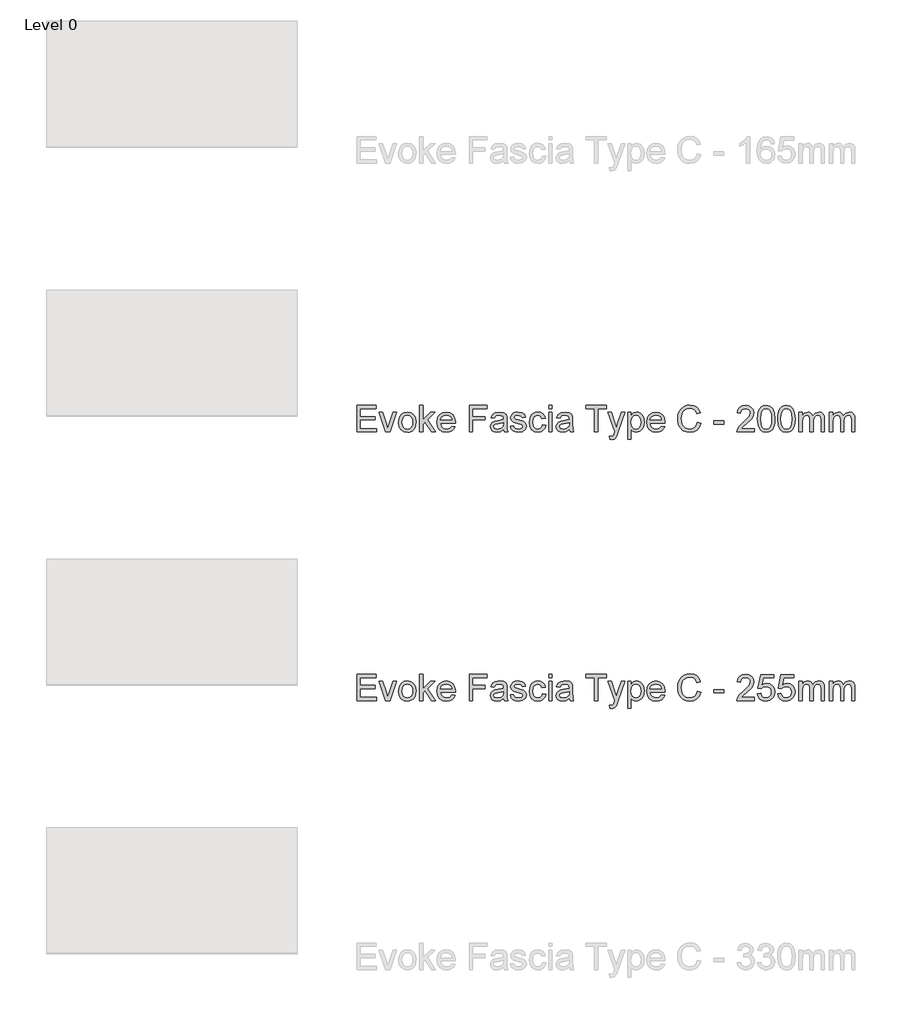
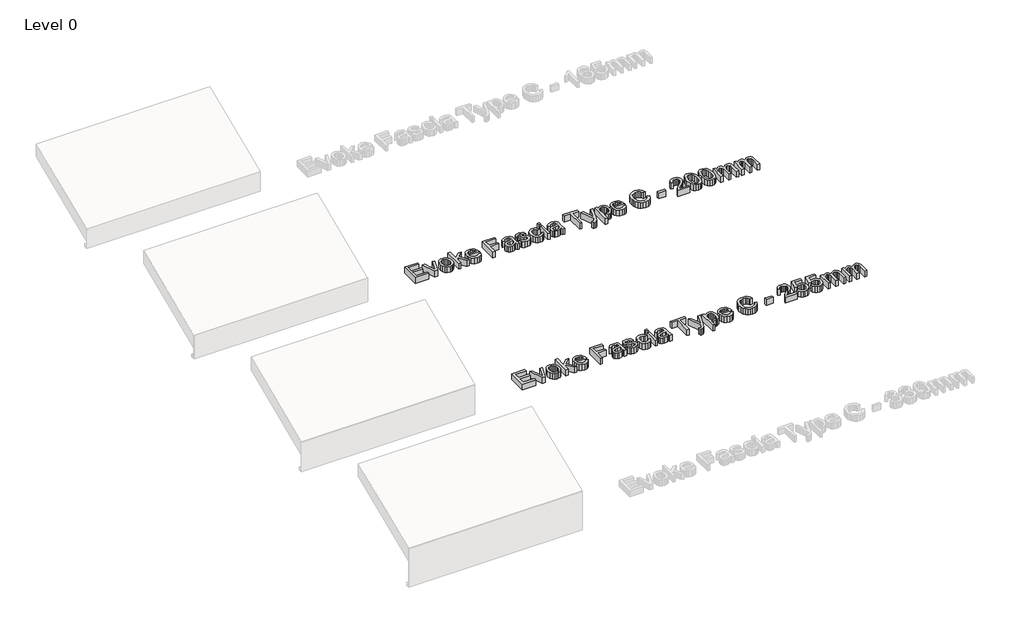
# One storey, part 12 of 13: 2 proxies.
"""IFC4 building model written with IfcOpenShell, lengths in millimetres."""

from ifc_helpers import new_model, si_unit, origin, origin_with_axes, place, context, project, spatial, polyline, outline, extrude, element, save

model = new_model("IFC4")

# Units and contexts
model_context = context("Model", 3, world=origin())
ifc_project = project(units=[si_unit("LENGTHUNIT", "METRE", prefix="MILLI")], contexts=[model_context])

# Site, building, storey
site = spatial("IfcSite", under=ifc_project)
building = spatial("IfcBuilding", under=site)
storey = spatial("IfcBuildingStorey", under=building, Name="Level 0", Elevation=0.0)

# Proxies
placement = place(None, origin())
element("IfcBuildingElementProxy", 1, Name="150mm Arial", ObjectType="150mm Arial", at=placement, inside=storey, context=model_context, shape_type="SweptSolid", body=[
    extrude(outline(polyline([(12568.7201043, 5860.6682311), (12568.7201043, 6008.3605388), (12674.8739504, 6008.3605388), (12674.8739504, 5989.8990003), (12587.1816427, 5989.8990003), (12587.1816427, 5946.0528465), (12670.2585658, 5946.0528465), (12670.2585658, 5927.591308), (12587.1816427, 5927.591308), (12587.1816427, 5879.1297695), (12677.1816427, 5879.1297695), (12677.1816427, 5860.6682311), (12568.7201043, 5860.6682311)])), origin_with_axes(), (0.0, 0.0, 1.0), 50.0),
    extrude(outline(polyline([(12729.176835, 5860.6682311), (12691.0277966, 5969.1297695), (12710.5710658, 5969.1297695), (12733.6840466, 5904.153808), (12740.6431812, 5882.3028465), (12747.458085, 5902.9278465), (12770.7152966, 5969.1297695), (12790.2585658, 5969.1297695), (12752.5782774, 5860.6682311), (12729.176835, 5860.6682311)])), origin_with_axes(), (0.0, 0.0, 1.0), 50.0),
    extrude(outline(polyline([(12801.7970274, 5914.8990003), (12805.7904168, 5941.0498416), (12817.770585, 5959.4302503), (12832.5722677, 5968.435659), (12850.2946235, 5971.4374618), (12869.6891548, 5967.7821133), (12885.1804408, 5956.8160676), (12895.3351884, 5939.4047094), (12898.7201043, 5916.4134234), (12897.22371, 5897.762582), (12892.7345274, 5883.5648657), (12885.3832653, 5872.9323537), (12875.3006331, 5864.9771253), (12863.3249721, 5860.0146854), (12850.2946235, 5858.3605388), (12830.6657173, 5862.0023657), (12815.19246, 5872.9278465), (12805.1458855, 5890.7042888), (12801.7970274, 5914.8990003)]), holes=[polyline([(12820.2585658, 5914.935058), (12822.3949841, 5898.2268248), (12828.8042389, 5886.3232791), (12838.4496716, 5879.1973777), (12850.2946235, 5876.8220772), (12862.0854889, 5879.2108993), (12871.7128927, 5886.3773657), (12878.1221475, 5898.4386638), (12880.2585658, 5915.5119811), (12878.1086259, 5931.7334354), (12871.6588062, 5943.4747215), (12862.0178807, 5950.6006229), (12850.2946235, 5952.9759234), (12838.4496716, 5950.6096373), (12828.8042389, 5943.5107791), (12822.3949841, 5931.6342767), (12820.2585658, 5914.935058)])]), origin_with_axes(), (0.0, 0.0, 1.0), 50.0),
    extrude(outline(polyline([(12919.489335, 5860.6682311), (12919.489335, 6008.3605388), (12937.9508735, 6008.3605388), (12937.9508735, 5928.997558), (12979.3451043, 5969.1297695), (13004.8739504, 5969.1297695), (12962.974912, 5928.4927503), (13007.1816427, 5860.6682311), (12985.6191427, 5860.6682311), (12949.7417389, 5915.6562118), (12937.9508735, 5904.2259234), (12937.9508735, 5860.6682311), (12919.489335, 5860.6682311)])), origin_with_axes(), (0.0, 0.0, 1.0), 50.0),
    extrude(outline(polyline([(13099.2729889, 5892.9759234), (13117.3739504, 5890.6682311), (13110.8520153, 5877.029409), (13100.4448639, 5866.8340965), (13086.3868711, 5860.4789282), (13068.912412, 5858.3605388), (13047.2507533, 5862.0158873), (13030.583085, 5872.981933), (13019.9550802, 5890.5465364), (13016.412412, 5913.997558), (13019.9911379, 5938.2373416), (13030.7273158, 5956.3653465), (13047.1696235, 5967.669433), (13067.8667389, 5971.4374618), (13087.919323, 5967.6784474), (13103.94246, 5956.4014041), (13114.4487701, 5938.309457), (13117.9508735, 5914.1057311), (13117.8427004, 5909.1297695), (13034.8739504, 5909.1297695), (13038.0695634, 5895.310659), (13045.4929408, 5885.1514041), (13056.2065826, 5878.904409), (13069.2729889, 5876.8220772), (13087.3739504, 5880.6802503), (13099.2729889, 5892.9759234)]), holes=[polyline([(13034.8739504, 5927.591308), (13099.489335, 5927.591308), (13096.9923399, 5937.3449138), (13092.0975081, 5944.3220772), (13081.334287, 5950.8124618), (13067.7946235, 5952.9759234), (13055.3502124, 5951.2496614), (13045.0602485, 5946.0708753), (13037.9073038, 5937.9984594), (13034.8739504, 5927.591308)])]), origin_with_axes(), (0.0, 0.0, 1.0), 50.0),
    extrude(outline(polyline([(13196.412412, 5860.6682311), (13196.412412, 6008.3605388), (13295.6431812, 6008.3605388), (13295.6431812, 5989.8990003), (13214.8739504, 5989.8990003), (13214.8739504, 5946.0528465), (13284.1047197, 5946.0528465), (13284.1047197, 5927.591308), (13214.8739504, 5927.591308), (13214.8739504, 5860.6682311), (13196.412412, 5860.6682311)])), origin_with_axes(), (0.0, 0.0, 1.0), 50.0),
    extrude(outline(polyline([(13387.9508735, 5874.5143849), (13370.0482293, 5862.0023657), (13350.270585, 5858.3605388), (13334.8423999, 5860.5510436), (13323.4616908, 5867.122558), (13316.4439624, 5877.1015243), (13314.1047197, 5889.5143849), (13317.6383735, 5904.1177503), (13326.9232293, 5914.7187118), (13339.849912, 5920.7764041), (13355.8234697, 5923.5528465), (13387.8427004, 5929.8990003), (13387.9508735, 5934.0095772), (13386.6798399, 5942.2487599), (13382.8667389, 5947.6393849), (13374.3390947, 5951.6417888), (13362.458085, 5952.9759234), (13343.7802004, 5949.4242407), (13334.8739504, 5936.8220772), (13316.412412, 5939.1297695), (13324.3991908, 5957.1586157), (13340.4809216, 5967.7235195), (13364.8378927, 5971.4374618), (13387.2116908, 5968.1562118), (13399.849912, 5959.9170291), (13405.5109697, 5947.3869811), (13406.412412, 5931.2331349), (13406.412412, 5908.2643849), (13407.349912, 5876.1910676), (13411.0277966, 5860.6682311), (13392.5662581, 5860.6682311), (13387.9508735, 5874.5143849)]), holes=[polyline([(13387.9508735, 5911.4374618), (13358.1672197, 5905.7764041), (13342.2838062, 5902.7836157), (13335.0902966, 5897.9158272), (13332.5662581, 5890.8124618), (13338.0650562, 5880.8244811), (13354.2008735, 5876.8220772), (13372.8787581, 5881.2391445), (13384.9220274, 5891.9302503), (13387.8427004, 5906.2090965), (13387.9508735, 5911.4374618)])]), origin_with_axes(), (0.0, 0.0, 1.0), 50.0),
    extrude(outline(polyline([(13424.8739504, 5892.9759234), (13443.3354889, 5895.2836157), (13446.2471475, 5887.3869811), (13451.881162, 5881.5816926), (13471.4604889, 5876.8220772), (13490.2826043, 5881.185058), (13496.412412, 5891.4254426), (13490.2465466, 5899.7187118), (13471.2441427, 5904.9831349), (13443.443662, 5914.0155868), (13431.3102485, 5924.5624618), (13427.1816427, 5939.4542888), (13430.4989504, 5953.2102984), (13439.5494312, 5963.7211157), (13451.28621, 5969.1838561), (13467.1696235, 5971.4374618), (13489.6335658, 5967.8136638), (13503.912412, 5958.0059715), (13510.2585658, 5941.4374618), (13491.7970274, 5939.1297695), (13484.8559216, 5949.3160676), (13468.6119312, 5952.9759234), (13450.943662, 5949.4783272), (13445.6431812, 5941.3292888), (13447.8427004, 5935.9566926), (13454.7297197, 5931.8821734), (13470.631162, 5927.9518849), (13497.7285177, 5919.2619811), (13510.3126524, 5909.4182311), (13514.8739504, 5893.372558), (13509.5193831, 5875.7042888), (13494.068662, 5862.8857791), (13471.208085, 5858.3605388), (13452.5933014, 5860.5420291), (13439.0085658, 5867.0865003), (13429.9400562, 5877.9218368), (13424.8739504, 5892.9759234)])), origin_with_axes(), (0.0, 0.0, 1.0), 50.0),
    extrude(outline(polyline([(13604.8739504, 5899.8990003), (13623.3354889, 5897.591308), (13618.1882533, 5881.1715364), (13608.5157774, 5868.763183), (13595.2285177, 5860.9611998), (13579.2369312, 5858.3605388), (13559.5990105, 5861.9888441), (13544.2429408, 5872.8737599), (13534.3315826, 5890.5375219), (13531.0277966, 5914.5023657), (13536.6708254, 5945.169433), (13543.7922197, 5956.6673296), (13553.8703447, 5964.8749618), (13565.9271355, 5969.7968368), (13578.9845274, 5971.4374618), (13594.5839865, 5969.1838561), (13607.0554408, 5962.4230388), (13616.0022557, 5951.5155868), (13621.0277966, 5936.8220772), (13602.5662581, 5934.5143849), (13594.0025562, 5948.3425099), (13579.1287581, 5952.9759234), (13567.1981692, 5950.6952743), (13557.7285177, 5943.8533272), (13551.5491307, 5932.0804907), (13549.489335, 5915.0071734), (13551.5040586, 5897.7039883), (13557.5482293, 5885.8905868), (13566.8466067, 5879.0892046), (13578.6239504, 5876.8220772), (13588.1837461, 5878.2373416), (13596.021787, 5882.4831349), (13601.7234096, 5889.6676301), (13604.8739504, 5899.8990003)])), origin_with_axes(), (0.0, 0.0, 1.0), 50.0),
    extrude(outline(polyline([(13639.489335, 5989.8990003), (13639.489335, 6008.3605388), (13657.9508735, 6008.3605388), (13657.9508735, 5989.8990003), (13639.489335, 5989.8990003)])), origin_with_axes(), (0.0, 0.0, 1.0), 50.0),
    extrude(outline(polyline([(13639.489335, 5860.6682311), (13639.489335, 5969.1297695), (13657.9508735, 5969.1297695), (13657.9508735, 5860.6682311), (13639.489335, 5860.6682311)])), origin_with_axes(), (0.0, 0.0, 1.0), 50.0),
    extrude(outline(polyline([(13754.8739504, 5874.5143849), (13736.9713062, 5862.0023657), (13717.193662, 5858.3605388), (13701.7654769, 5860.5510436), (13690.3847677, 5867.122558), (13683.3670394, 5877.1015243), (13681.0277966, 5889.5143849), (13684.5614504, 5904.1177503), (13693.8463062, 5914.7187118), (13706.7729889, 5920.7764041), (13722.7465466, 5923.5528465), (13754.7657774, 5929.8990003), (13754.8739504, 5934.0095772), (13753.6029168, 5942.2487599), (13749.7898158, 5947.6393849), (13741.2621716, 5951.6417888), (13729.381162, 5952.9759234), (13710.7032774, 5949.4242407), (13701.7970274, 5936.8220772), (13683.3354889, 5939.1297695), (13691.3222677, 5957.1586157), (13707.4039985, 5967.7235195), (13731.7609697, 5971.4374618), (13754.1347677, 5968.1562118), (13766.7729889, 5959.9170291), (13772.4340466, 5947.3869811), (13773.3354889, 5931.2331349), (13773.3354889, 5908.2643849), (13774.2729889, 5876.1910676), (13777.9508735, 5860.6682311), (13759.489335, 5860.6682311), (13754.8739504, 5874.5143849)]), holes=[polyline([(13754.8739504, 5911.4374618), (13725.0902966, 5905.7764041), (13709.2068831, 5902.7836157), (13702.0133735, 5897.9158272), (13699.489335, 5890.8124618), (13704.9881331, 5880.8244811), (13721.1239504, 5876.8220772), (13739.801835, 5881.2391445), (13751.8451043, 5891.9302503), (13754.7657774, 5906.2090965), (13754.8739504, 5911.4374618)])]), origin_with_axes(), (0.0, 0.0, 1.0), 50.0),
    extrude(outline(polyline([(13895.6431812, 5860.6682311), (13895.6431812, 5989.8990003), (13847.1816427, 5989.8990003), (13847.1816427, 6008.3605388), (13962.5662581, 6008.3605388), (13962.5662581, 5989.8990003), (13914.1047197, 5989.8990003), (13914.1047197, 5860.6682311), (13895.6431812, 5860.6682311)])), origin_with_axes(), (0.0, 0.0, 1.0), 50.0),
    extrude(outline(polyline([(13981.0277966, 5819.1297695), (13978.7201043, 5836.9062118), (13988.0951043, 5835.2836157), (13996.8571235, 5837.3208753), (14002.2297197, 5842.9999618), (14007.2777966, 5856.5937118), (14008.7201043, 5861.0648657), (13969.489335, 5969.1297695), (13988.9604889, 5969.1297695), (14009.7657774, 5908.9134234), (14017.0133735, 5884.8268849), (14024.2609697, 5906.1009234), (14045.6431812, 5969.1297695), (14064.9701043, 5969.1297695), (14027.2177004, 5858.0720772), (14017.4100081, 5833.9855388), (14006.7008735, 5820.9687118), (13992.3138543, 5816.8220772), (13981.0277966, 5819.1297695)])), origin_with_axes(), (0.0, 0.0, 1.0), 50.0),
    extrude(outline(polyline([(14080.2585658, 5819.1297695), (14080.2585658, 5969.1297695), (14098.7201043, 5969.1297695), (14098.7201043, 5951.028808), (14111.4845274, 5966.3352984), (14128.7201043, 5971.4374618), (14141.2050802, 5969.6526061), (14152.1215466, 5964.2980388), (14161.0097677, 5955.6982791), (14167.4100081, 5944.1778465), (14172.5662581, 5915.7283272), (14171.1104288, 5899.9395652), (14166.7429408, 5885.8184715), (14159.6035177, 5874.0816926), (14149.8318831, 5865.4458753), (14138.451174, 5860.1318729), (14126.4845274, 5858.3605388), (14110.4208254, 5863.1021253), (14098.7201043, 5875.091308), (14098.7201043, 5819.1297695), (14080.2585658, 5819.1297695)]), holes=[polyline([(14098.7201043, 5914.0336157), (14100.716799, 5897.4831349), (14106.7068831, 5885.9086157), (14115.5455249, 5879.0937118), (14126.0878927, 5876.8220772), (14136.8015346, 5879.1748416), (14145.865537, 5886.2331349), (14152.044924, 5898.231332), (14154.1047197, 5915.403808), (14152.0945033, 5931.8641445), (14146.0638543, 5943.6009234), (14137.2387341, 5950.6321734), (14126.8451043, 5952.9759234), (14116.4109096, 5950.4834354), (14107.2477485, 5943.0059715), (14100.8520153, 5930.7779066), (14098.7201043, 5914.0336157)])]), origin_with_axes(), (0.0, 0.0, 1.0), 50.0),
    extrude(outline(polyline([(14269.2729889, 5892.9759234), (14287.3739504, 5890.6682311), (14280.8520153, 5877.029409), (14270.4448639, 5866.8340965), (14256.3868711, 5860.4789282), (14238.912412, 5858.3605388), (14217.2507533, 5862.0158873), (14200.583085, 5872.981933), (14189.9550802, 5890.5465364), (14186.412412, 5913.997558), (14189.9911379, 5938.2373416), (14200.7273158, 5956.3653465), (14217.1696235, 5967.669433), (14237.8667389, 5971.4374618), (14257.919323, 5967.6784474), (14273.94246, 5956.4014041), (14284.4487701, 5938.309457), (14287.9508735, 5914.1057311), (14287.8427004, 5909.1297695), (14204.8739504, 5909.1297695), (14208.0695634, 5895.310659), (14215.4929408, 5885.1514041), (14226.2065826, 5878.904409), (14239.2729889, 5876.8220772), (14257.3739504, 5880.6802503), (14269.2729889, 5892.9759234)]), holes=[polyline([(14204.8739504, 5927.591308), (14269.489335, 5927.591308), (14266.9923399, 5937.3449138), (14262.0975081, 5944.3220772), (14251.334287, 5950.8124618), (14237.7946235, 5952.9759234), (14225.3502124, 5951.2496614), (14215.0602485, 5946.0708753), (14207.9073038, 5937.9984594), (14204.8739504, 5927.591308)])]), origin_with_axes(), (0.0, 0.0, 1.0), 50.0),
    extrude(outline(polyline([(14470.2585658, 5913.1682311), (14488.7201043, 5908.4086157), (14480.2014745, 5886.895695), (14466.833085, 5871.1790484), (14449.2729889, 5861.5651662), (14428.1792389, 5858.3605388), (14406.7654769, 5860.7854186), (14389.7597677, 5868.060058), (14376.724912, 5879.9320532), (14367.22371, 5896.1490003), (14361.4229288, 5915.2145051), (14359.489335, 5935.6321734), (14361.6753326, 5957.1676301), (14368.2333254, 5975.7643849), (14378.8207653, 5990.8319931), (14393.0951043, 6001.7800099), (14410.0241908, 6008.4461758), (14428.5758735, 6010.6682311), (14448.8177605, 6007.7926301), (14465.553037, 5999.1658272), (14478.2588663, 5985.3196734), (14486.412412, 5966.7860195), (14467.9508735, 5962.3869811), (14461.5506331, 5975.8500219), (14452.8066427, 5985.0852984), (14441.6107293, 5990.4263441), (14427.8547197, 5992.2066926), (14411.9983495, 5990.232534), (14398.9725081, 5984.310058), (14389.0881932, 5975.0612599), (14382.6564024, 5963.1081349), (14377.9508735, 5935.6682311), (14383.521787, 5903.8653465), (14390.6431812, 5891.9888441), (14400.865537, 5883.5468368), (14413.1206451, 5878.5032671), (14426.3402966, 5876.8220772), (14441.7504528, 5879.1117407), (14454.5914985, 5885.9807311), (14464.2865105, 5897.356933), (14470.2585658, 5913.1682311)])), origin_with_axes(), (0.0, 0.0, 1.0), 50.0),
    extrude(outline(polyline([(14560.2585658, 5904.5143849), (14560.2585658, 5922.9759234), (14617.9508735, 5922.9759234), (14617.9508735, 5904.5143849), (14560.2585658, 5904.5143849)])), origin_with_axes(), (0.0, 0.0, 1.0), 50.0),
    extrude(outline(polyline([(14786.412412, 5879.1297695), (14786.412412, 5860.6682311), (14689.489335, 5860.6682311), (14691.4725081, 5873.3965965), (14702.6864504, 5892.9939522), (14725.7994312, 5914.3941926), (14757.6744312, 5945.1514041), (14763.6509937, 5955.7523657), (14765.6431812, 5966.0648657), (14763.763674, 5975.3091566), (14758.1251524, 5982.9939522), (14749.4577846, 5988.1727383), (14738.4917389, 5989.8990003), (14726.9758134, 5988.2133032), (14718.0289985, 5983.1562118), (14712.2552605, 5975.1243609), (14710.2585658, 5964.5143849), (14691.7970274, 5966.8220772), (14696.2726884, 5984.6796493), (14705.9496716, 5997.7235195), (14720.3231692, 6005.701284), (14738.8883735, 6008.3605388), (14757.5887942, 6005.403808), (14771.9352485, 5996.5336157), (14781.0623519, 5983.2824138), (14784.1047197, 5967.1826541), (14780.8234697, 5949.6766445), (14769.9160177, 5931.575683), (14743.4677004, 5906.2812118), (14722.2297197, 5888.5227984), (14713.9003927, 5879.1297695), (14786.412412, 5879.1297695)])), origin_with_axes(), (0.0, 0.0, 1.0), 50.0),
    extrude(outline(polyline([(14804.8739504, 5933.3244811), (14806.2306211, 5956.9648056), (14810.3006331, 5975.8184715), (14817.0434216, 5990.1739402), (14826.4184216, 6000.3196734), (14838.4932413, 6006.3503224), (14853.3354889, 6008.3605388), (14874.8979889, 6003.6009234), (14889.7898158, 5989.8809715), (14898.443662, 5968.0300099), (14901.7970274, 5933.3244811), (14900.4538783, 5909.8193729), (14896.4244312, 5891.0107791), (14889.7222076, 5876.6417888), (14880.3607293, 5866.4554907), (14868.2588663, 5860.3842767), (14853.3354889, 5858.3605388), (14834.1527966, 5861.8761638), (14819.5854889, 5872.4230388), (14808.551835, 5897.4020051), (14804.8739504, 5933.3244811)]), holes=[polyline([(14823.3354889, 5933.3605388), (14825.4989504, 5904.3205748), (14831.989335, 5887.513183), (14841.6527966, 5879.4948537), (14853.3354889, 5876.8220772), (14865.0181812, 5879.5038681), (14874.6816427, 5887.5492407), (14881.1720274, 5904.3656469), (14883.3354889, 5933.3605388), (14881.2441427, 5961.746957), (14874.9701043, 5978.685058), (14865.3246716, 5987.0955147), (14853.1191427, 5989.8990003), (14841.5626524, 5987.4290484), (14832.2777966, 5980.0191926), (14825.5710658, 5962.0264041), (14823.3354889, 5933.3605388)])]), origin_with_axes(), (0.0, 0.0, 1.0), 50.0),
    extrude(outline(polyline([(14917.9508735, 5933.3244811), (14919.3075442, 5956.9648056), (14923.3775562, 5975.8184715), (14930.1203447, 5990.1739402), (14939.4953447, 6000.3196734), (14951.5701644, 6006.3503224), (14966.412412, 6008.3605388), (14987.974912, 6003.6009234), (15002.8667389, 5989.8809715), (15011.520585, 5968.0300099), (15014.8739504, 5933.3244811), (15013.5308014, 5909.8193729), (15009.5013543, 5891.0107791), (15002.7991307, 5876.6417888), (14993.4376524, 5866.4554907), (14981.3357894, 5860.3842767), (14966.412412, 5858.3605388), (14947.2297197, 5861.8761638), (14932.662412, 5872.4230388), (14921.6287581, 5897.4020051), (14917.9508735, 5933.3244811)]), holes=[polyline([(14936.412412, 5933.3605388), (14938.5758735, 5904.3205748), (14945.0662581, 5887.513183), (14954.7297197, 5879.4948537), (14966.412412, 5876.8220772), (14978.0951043, 5879.5038681), (14987.7585658, 5887.5492407), (14994.2489504, 5904.3656469), (14996.412412, 5933.3605388), (14994.3210658, 5961.746957), (14988.0470274, 5978.685058), (14978.4015947, 5987.0955147), (14966.1960658, 5989.8990003), (14954.6395754, 5987.4290484), (14945.3547197, 5980.0191926), (14938.6479889, 5962.0264041), (14936.412412, 5933.3605388)])]), origin_with_axes(), (0.0, 0.0, 1.0), 50.0),
    extrude(outline(polyline([(15035.6431812, 5860.6682311), (15035.6431812, 5969.1297695), (15054.1047197, 5969.1297695), (15054.1047197, 5951.2812118), (15066.7970274, 5965.9026061), (15084.8619312, 5971.4374618), (15095.1293591, 5970.0267046), (15103.3595274, 5965.794433), (15113.5277966, 5949.9831349), (15127.9328447, 5966.0738801), (15146.1239504, 5971.4374618), (15160.0016548, 5969.2063921), (15170.2645754, 5962.513183), (15176.6062221, 5951.177546), (15178.7201043, 5935.0191926), (15178.7201043, 5860.6682311), (15160.2585658, 5860.6682311), (15160.2585658, 5927.0865003), (15158.5458254, 5942.5011638), (15152.3439024, 5950.091308), (15141.7970274, 5952.9759234), (15131.7955249, 5951.1279666), (15123.6419793, 5945.5840965), (15118.2198038, 5935.965707), (15116.412412, 5921.8941926), (15116.412412, 5860.6682311), (15097.9508735, 5860.6682311), (15097.9508735, 5929.1417888), (15093.678037, 5947.0264041), (15088.0395153, 5951.4885436), (15079.6696235, 5952.9759234), (15066.0037581, 5949.0095772), (15056.9172197, 5937.3990003), (15054.1047197, 5915.3677503), (15054.1047197, 5860.6682311), (15035.6431812, 5860.6682311)])), origin_with_axes(), (0.0, 0.0, 1.0), 50.0),
    extrude(outline(polyline([(15206.412412, 5860.6682311), (15206.412412, 5969.1297695), (15224.8739504, 5969.1297695), (15224.8739504, 5951.2812118), (15237.5662581, 5965.9026061), (15255.631162, 5971.4374618), (15265.8985899, 5970.0267046), (15274.1287581, 5965.794433), (15284.2970274, 5949.9831349), (15298.7020754, 5966.0738801), (15316.8931812, 5971.4374618), (15330.7708855, 5969.2063921), (15341.0338062, 5962.513183), (15347.3754528, 5951.177546), (15349.489335, 5935.0191926), (15349.489335, 5860.6682311), (15331.0277966, 5860.6682311), (15331.0277966, 5927.0865003), (15329.3150562, 5942.5011638), (15323.1131331, 5950.091308), (15312.5662581, 5952.9759234), (15302.5647557, 5951.1279666), (15294.41121, 5945.5840965), (15288.9890346, 5935.965707), (15287.1816427, 5921.8941926), (15287.1816427, 5860.6682311), (15268.7201043, 5860.6682311), (15268.7201043, 5929.1417888), (15264.4472677, 5947.0264041), (15258.8087461, 5951.4885436), (15250.4388543, 5952.9759234), (15236.7729889, 5949.0095772), (15227.6864504, 5937.3990003), (15224.8739504, 5915.3677503), (15224.8739504, 5860.6682311), (15206.412412, 5860.6682311)])), origin_with_axes(), (0.0, 0.0, 1.0), 50.0),
])
element("IfcBuildingElementProxy", 2, Name="150mm Arial", ObjectType="150mm Arial", at=placement, inside=storey, context=model_context, shape_type="SweptSolid", body=[
    extrude(outline(polyline([(12568.7201043, 4360.6682311), (12568.7201043, 4508.3605388), (12674.8739504, 4508.3605388), (12674.8739504, 4489.8990003), (12587.1816427, 4489.8990003), (12587.1816427, 4446.0528465), (12670.2585658, 4446.0528465), (12670.2585658, 4427.591308), (12587.1816427, 4427.591308), (12587.1816427, 4379.1297695), (12677.1816427, 4379.1297695), (12677.1816427, 4360.6682311), (12568.7201043, 4360.6682311)])), origin_with_axes(), (0.0, 0.0, 1.0), 50.0),
    extrude(outline(polyline([(12729.176835, 4360.6682311), (12691.0277966, 4469.1297695), (12710.5710658, 4469.1297695), (12733.6840466, 4404.153808), (12740.6431812, 4382.3028465), (12747.458085, 4402.9278465), (12770.7152966, 4469.1297695), (12790.2585658, 4469.1297695), (12752.5782774, 4360.6682311), (12729.176835, 4360.6682311)])), origin_with_axes(), (0.0, 0.0, 1.0), 50.0),
    extrude(outline(polyline([(12801.7970274, 4414.8990003), (12805.7904168, 4441.0498416), (12817.770585, 4459.4302503), (12832.5722677, 4468.435659), (12850.2946235, 4471.4374618), (12869.6891548, 4467.7821133), (12885.1804408, 4456.8160676), (12895.3351884, 4439.4047094), (12898.7201043, 4416.4134234), (12897.22371, 4397.762582), (12892.7345274, 4383.5648657), (12885.3832653, 4372.9323537), (12875.3006331, 4364.9771253), (12863.3249721, 4360.0146854), (12850.2946235, 4358.3605388), (12830.6657173, 4362.0023657), (12815.19246, 4372.9278465), (12805.1458855, 4390.7042888), (12801.7970274, 4414.8990003)]), holes=[polyline([(12820.2585658, 4414.935058), (12822.3949841, 4398.2268248), (12828.8042389, 4386.3232791), (12838.4496716, 4379.1973777), (12850.2946235, 4376.8220772), (12862.0854889, 4379.2108993), (12871.7128927, 4386.3773657), (12878.1221475, 4398.4386638), (12880.2585658, 4415.5119811), (12878.1086259, 4431.7334354), (12871.6588062, 4443.4747215), (12862.0178807, 4450.6006229), (12850.2946235, 4452.9759234), (12838.4496716, 4450.6096373), (12828.8042389, 4443.5107791), (12822.3949841, 4431.6342767), (12820.2585658, 4414.935058)])]), origin_with_axes(), (0.0, 0.0, 1.0), 50.0),
    extrude(outline(polyline([(12919.489335, 4360.6682311), (12919.489335, 4508.3605388), (12937.9508735, 4508.3605388), (12937.9508735, 4428.997558), (12979.3451043, 4469.1297695), (13004.8739504, 4469.1297695), (12962.974912, 4428.4927503), (13007.1816427, 4360.6682311), (12985.6191427, 4360.6682311), (12949.7417389, 4415.6562118), (12937.9508735, 4404.2259234), (12937.9508735, 4360.6682311), (12919.489335, 4360.6682311)])), origin_with_axes(), (0.0, 0.0, 1.0), 50.0),
    extrude(outline(polyline([(13099.2729889, 4392.9759234), (13117.3739504, 4390.6682311), (13110.8520153, 4377.029409), (13100.4448639, 4366.8340965), (13086.3868711, 4360.4789282), (13068.912412, 4358.3605388), (13047.2507533, 4362.0158873), (13030.583085, 4372.981933), (13019.9550802, 4390.5465364), (13016.412412, 4413.997558), (13019.9911379, 4438.2373416), (13030.7273158, 4456.3653465), (13047.1696235, 4467.669433), (13067.8667389, 4471.4374618), (13087.919323, 4467.6784474), (13103.94246, 4456.4014041), (13114.4487701, 4438.309457), (13117.9508735, 4414.1057311), (13117.8427004, 4409.1297695), (13034.8739504, 4409.1297695), (13038.0695634, 4395.310659), (13045.4929408, 4385.1514041), (13056.2065826, 4378.904409), (13069.2729889, 4376.8220772), (13087.3739504, 4380.6802503), (13099.2729889, 4392.9759234)]), holes=[polyline([(13034.8739504, 4427.591308), (13099.489335, 4427.591308), (13096.9923399, 4437.3449138), (13092.0975081, 4444.3220772), (13081.334287, 4450.8124618), (13067.7946235, 4452.9759234), (13055.3502124, 4451.2496614), (13045.0602485, 4446.0708753), (13037.9073038, 4437.9984594), (13034.8739504, 4427.591308)])]), origin_with_axes(), (0.0, 0.0, 1.0), 50.0),
    extrude(outline(polyline([(13196.412412, 4360.6682311), (13196.412412, 4508.3605388), (13295.6431812, 4508.3605388), (13295.6431812, 4489.8990003), (13214.8739504, 4489.8990003), (13214.8739504, 4446.0528465), (13284.1047197, 4446.0528465), (13284.1047197, 4427.591308), (13214.8739504, 4427.591308), (13214.8739504, 4360.6682311), (13196.412412, 4360.6682311)])), origin_with_axes(), (0.0, 0.0, 1.0), 50.0),
    extrude(outline(polyline([(13387.9508735, 4374.5143849), (13370.0482293, 4362.0023657), (13350.270585, 4358.3605388), (13334.8423999, 4360.5510436), (13323.4616908, 4367.122558), (13316.4439624, 4377.1015243), (13314.1047197, 4389.5143849), (13317.6383735, 4404.1177503), (13326.9232293, 4414.7187118), (13339.849912, 4420.7764041), (13355.8234697, 4423.5528465), (13387.8427004, 4429.8990003), (13387.9508735, 4434.0095772), (13386.6798399, 4442.2487599), (13382.8667389, 4447.6393849), (13374.3390947, 4451.6417888), (13362.458085, 4452.9759234), (13343.7802004, 4449.4242407), (13334.8739504, 4436.8220772), (13316.412412, 4439.1297695), (13324.3991908, 4457.1586157), (13340.4809216, 4467.7235195), (13364.8378927, 4471.4374618), (13387.2116908, 4468.1562118), (13399.849912, 4459.9170291), (13405.5109697, 4447.3869811), (13406.412412, 4431.2331349), (13406.412412, 4408.2643849), (13407.349912, 4376.1910676), (13411.0277966, 4360.6682311), (13392.5662581, 4360.6682311), (13387.9508735, 4374.5143849)]), holes=[polyline([(13387.9508735, 4411.4374618), (13358.1672197, 4405.7764041), (13342.2838062, 4402.7836157), (13335.0902966, 4397.9158272), (13332.5662581, 4390.8124618), (13338.0650562, 4380.8244811), (13354.2008735, 4376.8220772), (13372.8787581, 4381.2391445), (13384.9220274, 4391.9302503), (13387.8427004, 4406.2090965), (13387.9508735, 4411.4374618)])]), origin_with_axes(), (0.0, 0.0, 1.0), 50.0),
    extrude(outline(polyline([(13424.8739504, 4392.9759234), (13443.3354889, 4395.2836157), (13446.2471475, 4387.3869811), (13451.881162, 4381.5816926), (13471.4604889, 4376.8220772), (13490.2826043, 4381.185058), (13496.412412, 4391.4254426), (13490.2465466, 4399.7187118), (13471.2441427, 4404.9831349), (13443.443662, 4414.0155868), (13431.3102485, 4424.5624618), (13427.1816427, 4439.4542888), (13430.4989504, 4453.2102984), (13439.5494312, 4463.7211157), (13451.28621, 4469.1838561), (13467.1696235, 4471.4374618), (13489.6335658, 4467.8136638), (13503.912412, 4458.0059715), (13510.2585658, 4441.4374618), (13491.7970274, 4439.1297695), (13484.8559216, 4449.3160676), (13468.6119312, 4452.9759234), (13450.943662, 4449.4783272), (13445.6431812, 4441.3292888), (13447.8427004, 4435.9566926), (13454.7297197, 4431.8821734), (13470.631162, 4427.9518849), (13497.7285177, 4419.2619811), (13510.3126524, 4409.4182311), (13514.8739504, 4393.372558), (13509.5193831, 4375.7042888), (13494.068662, 4362.8857791), (13471.208085, 4358.3605388), (13452.5933014, 4360.5420291), (13439.0085658, 4367.0865003), (13429.9400562, 4377.9218368), (13424.8739504, 4392.9759234)])), origin_with_axes(), (0.0, 0.0, 1.0), 50.0),
    extrude(outline(polyline([(13604.8739504, 4399.8990003), (13623.3354889, 4397.591308), (13618.1882533, 4381.1715364), (13608.5157774, 4368.763183), (13595.2285177, 4360.9611998), (13579.2369312, 4358.3605388), (13559.5990105, 4361.9888441), (13544.2429408, 4372.8737599), (13534.3315826, 4390.5375219), (13531.0277966, 4414.5023657), (13536.6708254, 4445.169433), (13543.7922197, 4456.6673296), (13553.8703447, 4464.8749618), (13565.9271355, 4469.7968368), (13578.9845274, 4471.4374618), (13594.5839865, 4469.1838561), (13607.0554408, 4462.4230388), (13616.0022557, 4451.5155868), (13621.0277966, 4436.8220772), (13602.5662581, 4434.5143849), (13594.0025562, 4448.3425099), (13579.1287581, 4452.9759234), (13567.1981692, 4450.6952743), (13557.7285177, 4443.8533272), (13551.5491307, 4432.0804907), (13549.489335, 4415.0071734), (13551.5040586, 4397.7039883), (13557.5482293, 4385.8905868), (13566.8466067, 4379.0892046), (13578.6239504, 4376.8220772), (13588.1837461, 4378.2373416), (13596.021787, 4382.4831349), (13601.7234096, 4389.6676301), (13604.8739504, 4399.8990003)])), origin_with_axes(), (0.0, 0.0, 1.0), 50.0),
    extrude(outline(polyline([(13639.489335, 4489.8990003), (13639.489335, 4508.3605388), (13657.9508735, 4508.3605388), (13657.9508735, 4489.8990003), (13639.489335, 4489.8990003)])), origin_with_axes(), (0.0, 0.0, 1.0), 50.0),
    extrude(outline(polyline([(13639.489335, 4360.6682311), (13639.489335, 4469.1297695), (13657.9508735, 4469.1297695), (13657.9508735, 4360.6682311), (13639.489335, 4360.6682311)])), origin_with_axes(), (0.0, 0.0, 1.0), 50.0),
    extrude(outline(polyline([(13754.8739504, 4374.5143849), (13736.9713062, 4362.0023657), (13717.193662, 4358.3605388), (13701.7654769, 4360.5510436), (13690.3847677, 4367.122558), (13683.3670394, 4377.1015243), (13681.0277966, 4389.5143849), (13684.5614504, 4404.1177503), (13693.8463062, 4414.7187118), (13706.7729889, 4420.7764041), (13722.7465466, 4423.5528465), (13754.7657774, 4429.8990003), (13754.8739504, 4434.0095772), (13753.6029168, 4442.2487599), (13749.7898158, 4447.6393849), (13741.2621716, 4451.6417888), (13729.381162, 4452.9759234), (13710.7032774, 4449.4242407), (13701.7970274, 4436.8220772), (13683.3354889, 4439.1297695), (13691.3222677, 4457.1586157), (13707.4039985, 4467.7235195), (13731.7609697, 4471.4374618), (13754.1347677, 4468.1562118), (13766.7729889, 4459.9170291), (13772.4340466, 4447.3869811), (13773.3354889, 4431.2331349), (13773.3354889, 4408.2643849), (13774.2729889, 4376.1910676), (13777.9508735, 4360.6682311), (13759.489335, 4360.6682311), (13754.8739504, 4374.5143849)]), holes=[polyline([(13754.8739504, 4411.4374618), (13725.0902966, 4405.7764041), (13709.2068831, 4402.7836157), (13702.0133735, 4397.9158272), (13699.489335, 4390.8124618), (13704.9881331, 4380.8244811), (13721.1239504, 4376.8220772), (13739.801835, 4381.2391445), (13751.8451043, 4391.9302503), (13754.7657774, 4406.2090965), (13754.8739504, 4411.4374618)])]), origin_with_axes(), (0.0, 0.0, 1.0), 50.0),
    extrude(outline(polyline([(13895.6431812, 4360.6682311), (13895.6431812, 4489.8990003), (13847.1816427, 4489.8990003), (13847.1816427, 4508.3605388), (13962.5662581, 4508.3605388), (13962.5662581, 4489.8990003), (13914.1047197, 4489.8990003), (13914.1047197, 4360.6682311), (13895.6431812, 4360.6682311)])), origin_with_axes(), (0.0, 0.0, 1.0), 50.0),
    extrude(outline(polyline([(13981.0277966, 4319.1297695), (13978.7201043, 4336.9062118), (13988.0951043, 4335.2836157), (13996.8571235, 4337.3208753), (14002.2297197, 4342.9999618), (14007.2777966, 4356.5937118), (14008.7201043, 4361.0648657), (13969.489335, 4469.1297695), (13988.9604889, 4469.1297695), (14009.7657774, 4408.9134234), (14017.0133735, 4384.8268849), (14024.2609697, 4406.1009234), (14045.6431812, 4469.1297695), (14064.9701043, 4469.1297695), (14027.2177004, 4358.0720772), (14017.4100081, 4333.9855388), (14006.7008735, 4320.9687118), (13992.3138543, 4316.8220772), (13981.0277966, 4319.1297695)])), origin_with_axes(), (0.0, 0.0, 1.0), 50.0),
    extrude(outline(polyline([(14080.2585658, 4319.1297695), (14080.2585658, 4469.1297695), (14098.7201043, 4469.1297695), (14098.7201043, 4451.028808), (14111.4845274, 4466.3352984), (14128.7201043, 4471.4374618), (14141.2050802, 4469.6526061), (14152.1215466, 4464.2980388), (14161.0097677, 4455.6982791), (14167.4100081, 4444.1778465), (14172.5662581, 4415.7283272), (14171.1104288, 4399.9395652), (14166.7429408, 4385.8184715), (14159.6035177, 4374.0816926), (14149.8318831, 4365.4458753), (14138.451174, 4360.1318729), (14126.4845274, 4358.3605388), (14110.4208254, 4363.1021253), (14098.7201043, 4375.091308), (14098.7201043, 4319.1297695), (14080.2585658, 4319.1297695)]), holes=[polyline([(14098.7201043, 4414.0336157), (14100.716799, 4397.4831349), (14106.7068831, 4385.9086157), (14115.5455249, 4379.0937118), (14126.0878927, 4376.8220772), (14136.8015346, 4379.1748416), (14145.865537, 4386.2331349), (14152.044924, 4398.231332), (14154.1047197, 4415.403808), (14152.0945033, 4431.8641445), (14146.0638543, 4443.6009234), (14137.2387341, 4450.6321734), (14126.8451043, 4452.9759234), (14116.4109096, 4450.4834354), (14107.2477485, 4443.0059715), (14100.8520153, 4430.7779066), (14098.7201043, 4414.0336157)])]), origin_with_axes(), (0.0, 0.0, 1.0), 50.0),
    extrude(outline(polyline([(14269.2729889, 4392.9759234), (14287.3739504, 4390.6682311), (14280.8520153, 4377.029409), (14270.4448639, 4366.8340965), (14256.3868711, 4360.4789282), (14238.912412, 4358.3605388), (14217.2507533, 4362.0158873), (14200.583085, 4372.981933), (14189.9550802, 4390.5465364), (14186.412412, 4413.997558), (14189.9911379, 4438.2373416), (14200.7273158, 4456.3653465), (14217.1696235, 4467.669433), (14237.8667389, 4471.4374618), (14257.919323, 4467.6784474), (14273.94246, 4456.4014041), (14284.4487701, 4438.309457), (14287.9508735, 4414.1057311), (14287.8427004, 4409.1297695), (14204.8739504, 4409.1297695), (14208.0695634, 4395.310659), (14215.4929408, 4385.1514041), (14226.2065826, 4378.904409), (14239.2729889, 4376.8220772), (14257.3739504, 4380.6802503), (14269.2729889, 4392.9759234)]), holes=[polyline([(14204.8739504, 4427.591308), (14269.489335, 4427.591308), (14266.9923399, 4437.3449138), (14262.0975081, 4444.3220772), (14251.334287, 4450.8124618), (14237.7946235, 4452.9759234), (14225.3502124, 4451.2496614), (14215.0602485, 4446.0708753), (14207.9073038, 4437.9984594), (14204.8739504, 4427.591308)])]), origin_with_axes(), (0.0, 0.0, 1.0), 50.0),
    extrude(outline(polyline([(14470.2585658, 4413.1682311), (14488.7201043, 4408.4086157), (14480.2014745, 4386.895695), (14466.833085, 4371.1790484), (14449.2729889, 4361.5651662), (14428.1792389, 4358.3605388), (14406.7654769, 4360.7854186), (14389.7597677, 4368.060058), (14376.724912, 4379.9320532), (14367.22371, 4396.1490003), (14361.4229288, 4415.2145051), (14359.489335, 4435.6321734), (14361.6753326, 4457.1676301), (14368.2333254, 4475.7643849), (14378.8207653, 4490.8319931), (14393.0951043, 4501.7800099), (14410.0241908, 4508.4461758), (14428.5758735, 4510.6682311), (14448.8177605, 4507.7926301), (14465.553037, 4499.1658272), (14478.2588663, 4485.3196734), (14486.412412, 4466.7860195), (14467.9508735, 4462.3869811), (14461.5506331, 4475.8500219), (14452.8066427, 4485.0852984), (14441.6107293, 4490.4263441), (14427.8547197, 4492.2066926), (14411.9983495, 4490.232534), (14398.9725081, 4484.310058), (14389.0881932, 4475.0612599), (14382.6564024, 4463.1081349), (14377.9508735, 4435.6682311), (14383.521787, 4403.8653465), (14390.6431812, 4391.9888441), (14400.865537, 4383.5468368), (14413.1206451, 4378.5032671), (14426.3402966, 4376.8220772), (14441.7504528, 4379.1117407), (14454.5914985, 4385.9807311), (14464.2865105, 4397.356933), (14470.2585658, 4413.1682311)])), origin_with_axes(), (0.0, 0.0, 1.0), 50.0),
    extrude(outline(polyline([(14560.2585658, 4404.5143849), (14560.2585658, 4422.9759234), (14617.9508735, 4422.9759234), (14617.9508735, 4404.5143849), (14560.2585658, 4404.5143849)])), origin_with_axes(), (0.0, 0.0, 1.0), 50.0),
    extrude(outline(polyline([(14786.412412, 4379.1297695), (14786.412412, 4360.6682311), (14689.489335, 4360.6682311), (14691.4725081, 4373.3965965), (14702.6864504, 4392.9939522), (14725.7994312, 4414.3941926), (14757.6744312, 4445.1514041), (14763.6509937, 4455.7523657), (14765.6431812, 4466.0648657), (14763.763674, 4475.3091566), (14758.1251524, 4482.9939522), (14749.4577846, 4488.1727383), (14738.4917389, 4489.8990003), (14726.9758134, 4488.2133032), (14718.0289985, 4483.1562118), (14712.2552605, 4475.1243609), (14710.2585658, 4464.5143849), (14691.7970274, 4466.8220772), (14696.2726884, 4484.6796493), (14705.9496716, 4497.7235195), (14720.3231692, 4505.701284), (14738.8883735, 4508.3605388), (14757.5887942, 4505.403808), (14771.9352485, 4496.5336157), (14781.0623519, 4483.2824138), (14784.1047197, 4467.1826541), (14780.8234697, 4449.6766445), (14769.9160177, 4431.575683), (14743.4677004, 4406.2812118), (14722.2297197, 4388.5227984), (14713.9003927, 4379.1297695), (14786.412412, 4379.1297695)])), origin_with_axes(), (0.0, 0.0, 1.0), 50.0),
    extrude(outline(polyline([(14804.8739504, 4399.8990003), (14823.3354889, 4402.2066926), (14826.724912, 4391.1234594), (14832.6383735, 4383.1862599), (14841.0488302, 4378.4131229), (14851.9292389, 4376.8220772), (14865.162412, 4379.0351181), (14875.0782774, 4385.6742407), (14881.271186, 4395.9732191), (14883.3354889, 4409.1658272), (14881.4018951, 4421.5877022), (14875.6011139, 4431.0889041), (14865.888073, 4437.1195532), (14852.2177004, 4439.1297695), (14836.0097677, 4435.9206349), (14825.6431812, 4427.591308), (14807.1816427, 4429.8990003), (14823.3354889, 4506.0528465), (14894.8739504, 4506.0528465), (14894.8739504, 4487.591308), (14838.2633735, 4487.591308), (14830.3667389, 4446.9182311), (14843.5548399, 4454.9230388), (14857.3739504, 4457.591308), (14874.623049, 4454.2830147), (14888.94246, 4444.3581349), (14898.5833855, 4429.231933), (14901.7970274, 4410.3196734), (14898.9033975, 4391.8581349), (14890.2225081, 4376.0648657), (14873.599912, 4362.7866205), (14851.8571235, 4358.3605388), (14833.7246115, 4361.2045892), (14819.2789985, 4369.7367407), (14809.3766548, 4382.9654066), (14804.8739504, 4399.8990003)])), origin_with_axes(), (0.0, 0.0, 1.0), 50.0),
    extrude(outline(polyline([(14917.9508735, 4399.8990003), (14936.412412, 4402.2066926), (14939.801835, 4391.1234594), (14945.7152966, 4383.1862599), (14954.1257533, 4378.4131229), (14965.006162, 4376.8220772), (14978.239335, 4379.0351181), (14988.1552004, 4385.6742407), (14994.3481091, 4395.9732191), (14996.412412, 4409.1658272), (14994.4788182, 4421.5877022), (14988.678037, 4431.0889041), (14978.9649961, 4437.1195532), (14965.2946235, 4439.1297695), (14949.0866908, 4435.9206349), (14938.7201043, 4427.591308), (14920.2585658, 4429.8990003), (14936.412412, 4506.0528465), (15007.9508735, 4506.0528465), (15007.9508735, 4487.591308), (14951.3402966, 4487.591308), (14943.443662, 4446.9182311), (14956.6317629, 4454.9230388), (14970.4508735, 4457.591308), (14987.6999721, 4454.2830147), (15002.0193831, 4444.3581349), (15011.6603086, 4429.231933), (15014.8739504, 4410.3196734), (15011.9803206, 4391.8581349), (15003.2994312, 4376.0648657), (14986.676835, 4362.7866205), (14964.9340466, 4358.3605388), (14946.8015346, 4361.2045892), (14932.3559216, 4369.7367407), (14922.4535778, 4382.9654066), (14917.9508735, 4399.8990003)])), origin_with_axes(), (0.0, 0.0, 1.0), 50.0),
    extrude(outline(polyline([(15035.6431812, 4360.6682311), (15035.6431812, 4469.1297695), (15054.1047197, 4469.1297695), (15054.1047197, 4451.2812118), (15066.7970274, 4465.9026061), (15084.8619312, 4471.4374618), (15095.1293591, 4470.0267046), (15103.3595274, 4465.794433), (15113.5277966, 4449.9831349), (15127.9328447, 4466.0738801), (15146.1239504, 4471.4374618), (15160.0016548, 4469.2063921), (15170.2645754, 4462.513183), (15176.6062221, 4451.177546), (15178.7201043, 4435.0191926), (15178.7201043, 4360.6682311), (15160.2585658, 4360.6682311), (15160.2585658, 4427.0865003), (15158.5458254, 4442.5011638), (15152.3439024, 4450.091308), (15141.7970274, 4452.9759234), (15131.7955249, 4451.1279666), (15123.6419793, 4445.5840965), (15118.2198038, 4435.965707), (15116.412412, 4421.8941926), (15116.412412, 4360.6682311), (15097.9508735, 4360.6682311), (15097.9508735, 4429.1417888), (15093.678037, 4447.0264041), (15088.0395153, 4451.4885436), (15079.6696235, 4452.9759234), (15066.0037581, 4449.0095772), (15056.9172197, 4437.3990003), (15054.1047197, 4415.3677503), (15054.1047197, 4360.6682311), (15035.6431812, 4360.6682311)])), origin_with_axes(), (0.0, 0.0, 1.0), 50.0),
    extrude(outline(polyline([(15206.412412, 4360.6682311), (15206.412412, 4469.1297695), (15224.8739504, 4469.1297695), (15224.8739504, 4451.2812118), (15237.5662581, 4465.9026061), (15255.631162, 4471.4374618), (15265.8985899, 4470.0267046), (15274.1287581, 4465.794433), (15284.2970274, 4449.9831349), (15298.7020754, 4466.0738801), (15316.8931812, 4471.4374618), (15330.7708855, 4469.2063921), (15341.0338062, 4462.513183), (15347.3754528, 4451.177546), (15349.489335, 4435.0191926), (15349.489335, 4360.6682311), (15331.0277966, 4360.6682311), (15331.0277966, 4427.0865003), (15329.3150562, 4442.5011638), (15323.1131331, 4450.091308), (15312.5662581, 4452.9759234), (15302.5647557, 4451.1279666), (15294.41121, 4445.5840965), (15288.9890346, 4435.965707), (15287.1816427, 4421.8941926), (15287.1816427, 4360.6682311), (15268.7201043, 4360.6682311), (15268.7201043, 4429.1417888), (15264.4472677, 4447.0264041), (15258.8087461, 4451.4885436), (15250.4388543, 4452.9759234), (15236.7729889, 4449.0095772), (15227.6864504, 4437.3990003), (15224.8739504, 4415.3677503), (15224.8739504, 4360.6682311), (15206.412412, 4360.6682311)])), origin_with_axes(), (0.0, 0.0, 1.0), 50.0),
])

save(model, "model.ifc")
